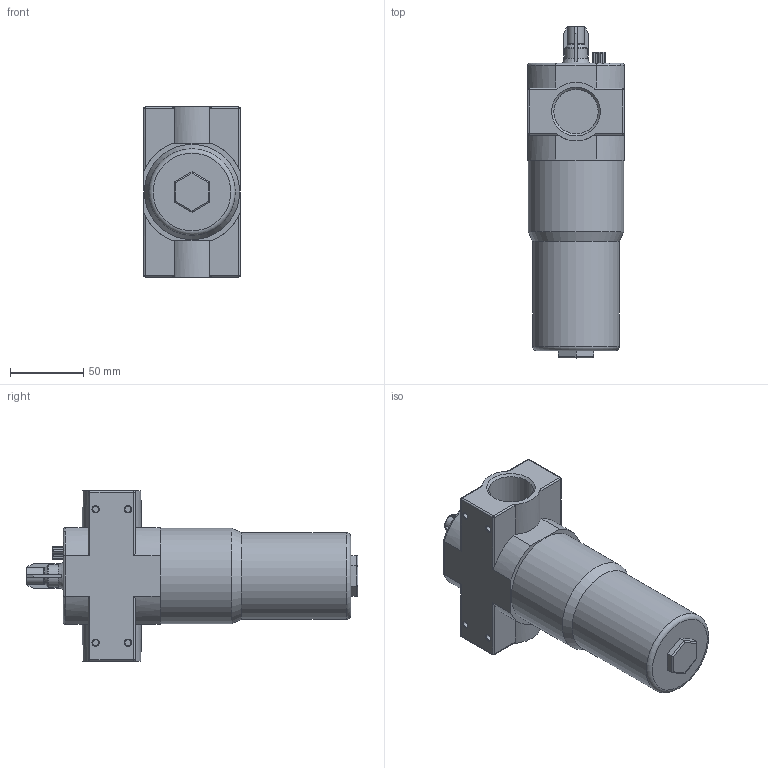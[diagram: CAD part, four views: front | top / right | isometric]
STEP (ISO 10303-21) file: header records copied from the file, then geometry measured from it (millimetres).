
FILE_DESCRIPTION(/* description */ ('STEP AP214'),/* implementation_level */ '2;1');
FILE_NAME(/* name */ '90-OC-10.stp',/* time_stamp */ '2026-01-20T15:19:29+01:00',/* author */ ('Tschernatsch'),/* organization */ ('CADENAS'),/* preprocessor_version */ 'ST-DEVELOPER v20',/* originating_system */ 'Autodesk Inventor 2024',/* authorisation */ ' ');
FILE_SCHEMA (('AUTOMOTIVE_DESIGN { 1 0 10303 214 3 1 1 }'));
Length unit declared in the file: millimetre
Products named in the file (1): LOE-G1-MAXI_____
Bounding box: 66 x 226.5 x 116 mm (x, y, z)
Volume: 736648 mm3; surface area: 65638.7 mm2
Topology: 1 solids, 1 shells, 194 faces, 480 edges, 290 vertices
Faces by surface type: cylinder 82, plane 70, torus 22, cone 12, sphere 8
Full cylindrical faces by diameter (mm): 4.134 x4, 30.291 x2, 59 x1, 65 x1
Entity records: 6106 total; most frequent: CARTESIAN_POINT 1539, DIRECTION 952, ORIENTED_EDGE 944, EDGE_CURVE 472, AXIS2_PLACEMENT_3D 354, VERTEX_POINT 290, LINE 244, VECTOR 244
